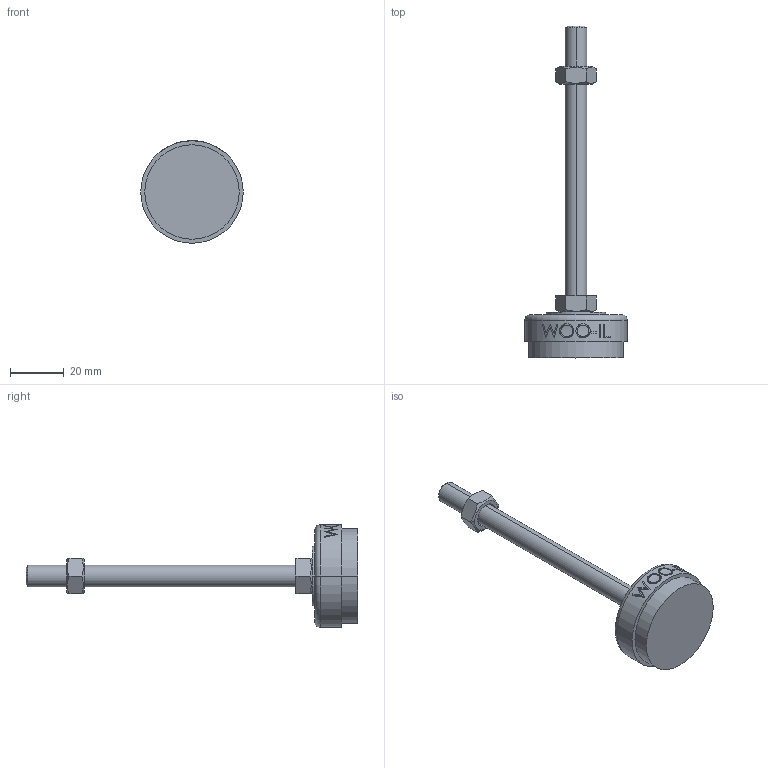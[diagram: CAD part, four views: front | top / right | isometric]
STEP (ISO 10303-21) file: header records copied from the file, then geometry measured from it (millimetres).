
FILE_DESCRIPTION (( 'STEP AP214' ), '1' );
FILE_NAME ('NS38-M8-100.STEP', '2021-03-29T00:34:46', ( '' ), ( '' ), 'SwSTEP 2.0', 'SolidWorks 2019', '' );
FILE_SCHEMA (( 'AUTOMOTIVE_DESIGN' ));
Length unit declared in the file: millimetre
Products named in the file (1): NS38-M8-100
Bounding box: 38 x 123 x 38 mm (x, y, z)
Volume: 23877.8 mm3; surface area: 7761.1 mm2
Topology: 3 solids, 3 shells, 96 faces, 223 edges, 144 vertices
Faces by surface type: plane 48, cylinder 18, bspline 16, cone 12, torus 2
Entity records: 4189 total; most frequent: CARTESIAN_POINT 2078, ORIENTED_EDGE 446, DIRECTION 379, EDGE_CURVE 223, VERTEX_POINT 144, AXIS2_PLACEMENT_3D 141, EDGE_LOOP 109, LINE 97
